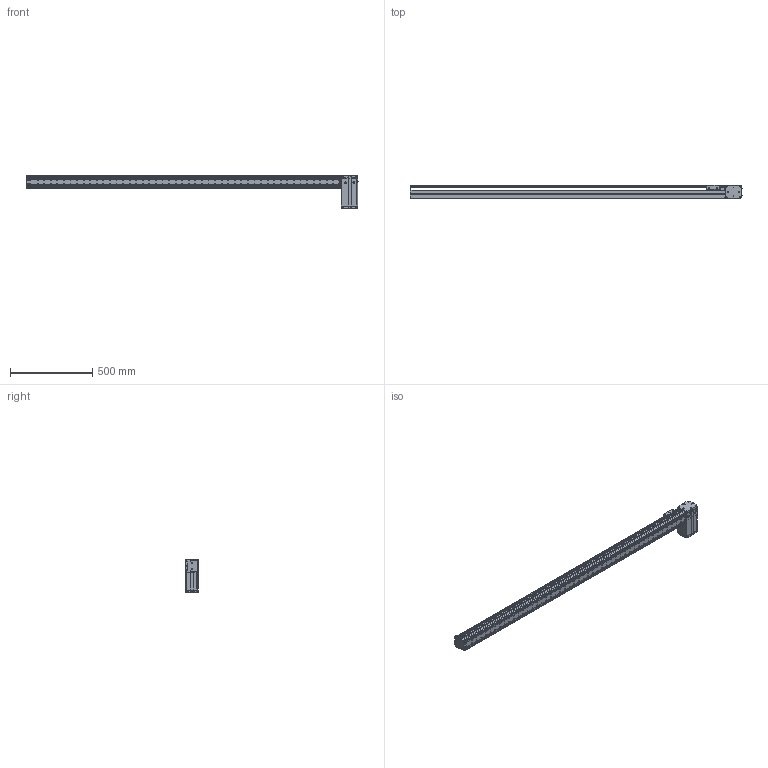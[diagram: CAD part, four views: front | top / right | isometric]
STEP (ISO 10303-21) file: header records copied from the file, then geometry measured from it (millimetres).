
FILE_DESCRIPTION((''),'2;1');
FILE_NAME('BE10_-BL-S_N-H5_IGS_PRT','2017-06-18T',(' '),(''),'PRO/ENGINEER BY PARAMETRIC TECHNOLOGY CORPORATION, 2015030','PRO/ENGINEER BY PARAMETRIC TECHNOLOGY CORPORATION, 2015030','');
FILE_SCHEMA(('CONFIG_CONTROL_DESIGN'));
Products named in the file (1): BE10_-BL-S_N-H5_IGS_PRT
Bounding box: 2020.8 x 85 x 200.22 mm (x, y, z)
Volume: 2589438 mm3; surface area: 1850884.4 mm2
Topology: 5 solids, 173 shells, 2291 faces, 6287 edges, 4188 vertices
Faces by surface type: cylinder 1067, plane 1065, cone 103, sphere 28, torus 25, bspline 3
Entity records: 75240 total; most frequent: CARTESIAN_POINT 15605, DIRECTION 12680, ORIENTED_EDGE 11818, EDGE_CURVE 6231, AXIS2_PLACEMENT_3D 4632, VERTEX_POINT 4187, VECTOR 3416, LINE 3416
